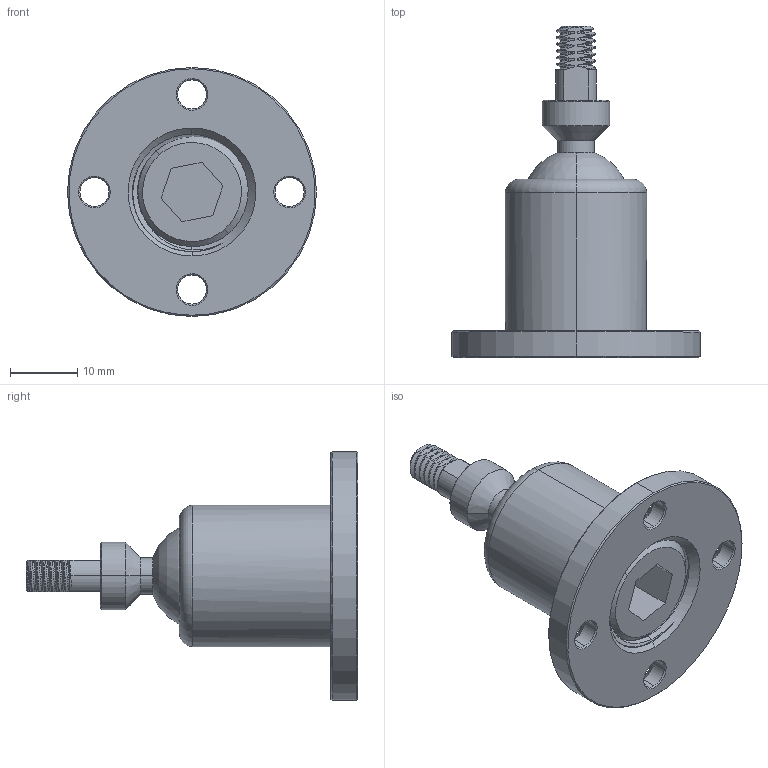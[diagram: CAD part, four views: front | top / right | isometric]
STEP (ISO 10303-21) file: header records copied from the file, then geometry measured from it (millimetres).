
FILE_DESCRIPTION (( 'STEP AP203' ), '1' );
FILE_NAME ('XG11-101.STEP', '2025-04-17T00:52:24', ( '微软用户' ), ( '微软中国' ), 'SwSTEP 2.0', 'SolidWorks 2024', '' );
FILE_SCHEMA (( 'CONFIG_CONTROL_DESIGN' ));
Length unit declared in the file: millimetre
Products named in the file (1): XG11-101
Bounding box: 37 x 49.27 x 37 mm (x, y, z)
Volume: 11838.7 mm3; surface area: 9200.5 mm2
Topology: 5 solids, 5 shells, 203 faces, 550 edges, 357 vertices
Faces by surface type: cylinder 87, bspline 45, cone 38, plane 23, sphere 8, torus 2
Entity records: 19723 total; most frequent: CARTESIAN_POINT 15279, ORIENTED_EDGE 1088, DIRECTION 628, EDGE_CURVE 544, VERTEX_POINT 355, B_SPLINE_CURVE_WITH_KNOTS 267, AXIS2_PLACEMENT_3D 232, EDGE_LOOP 217
